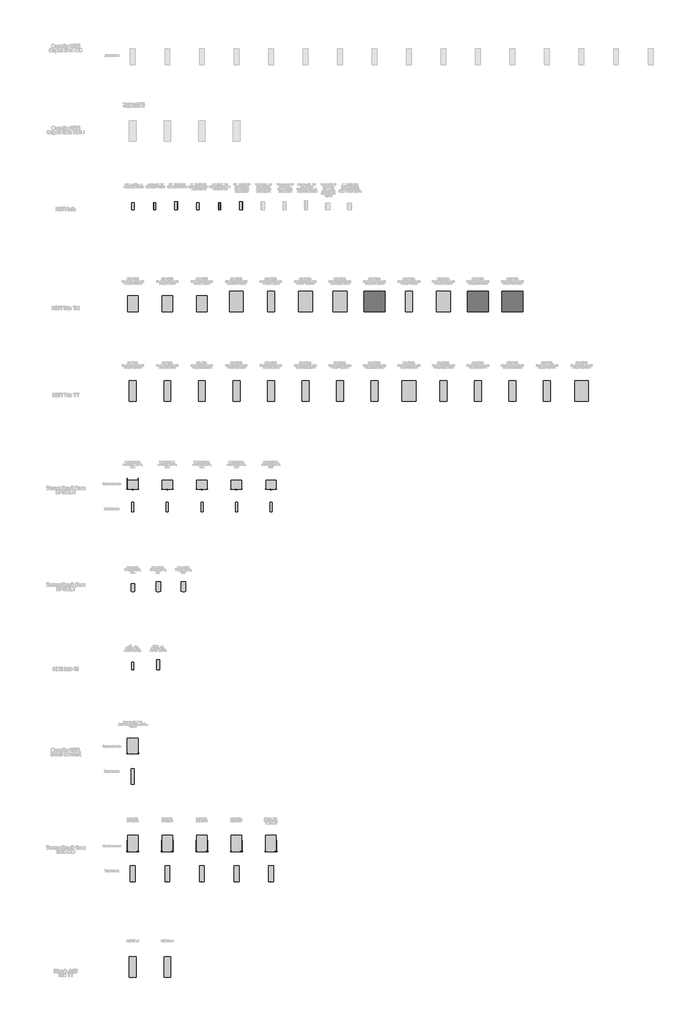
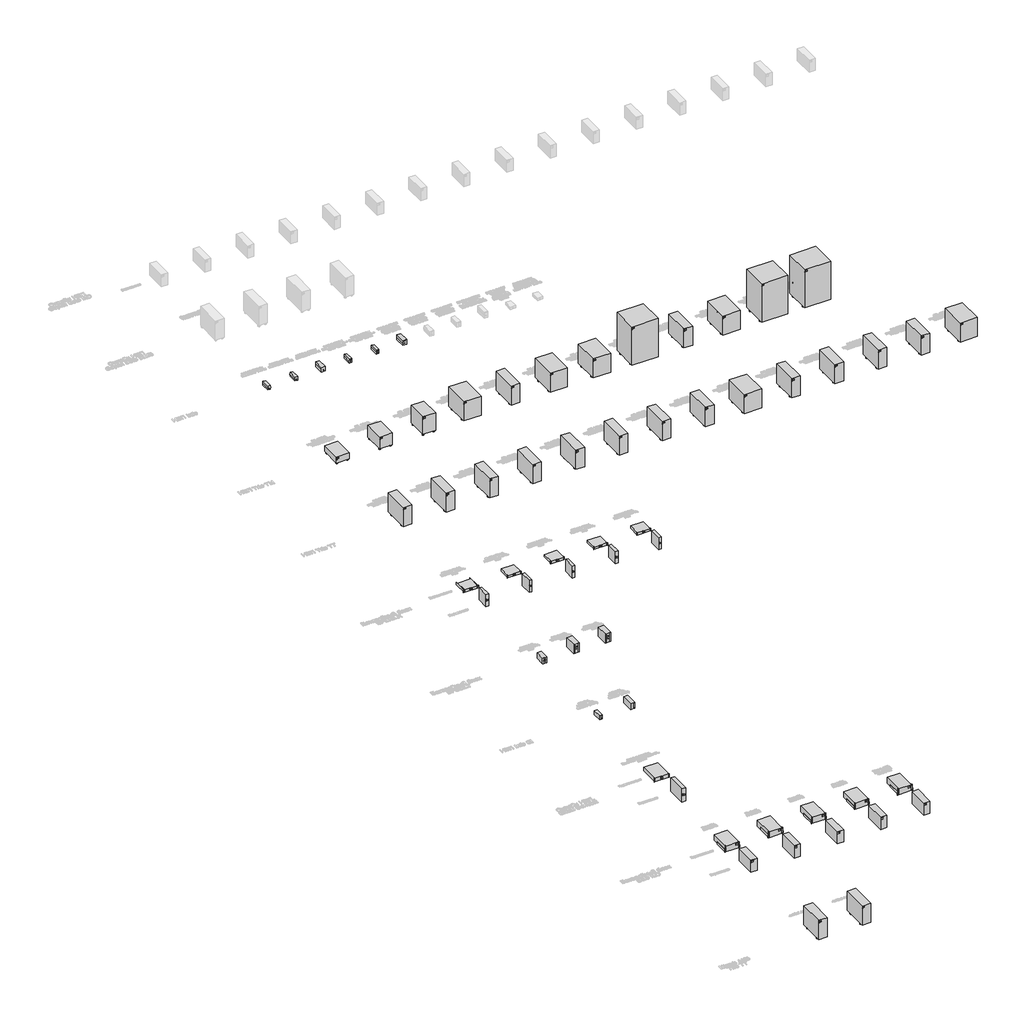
# One storey, part 1 of 74: 134 proxies.
"""IFC4 building model written with IfcOpenShell, lengths in millimetres."""

from ifc_helpers import new_model, si_unit, origin, place, context, project, spatial, transform, mapped, element, save
from components import electrical_equipment_459813d2, electrical_equipment_13bdf060, electrical_equipment_a814c98c, electrical_equipment_870dc941, electrical_equipment_41b7a089, electrical_equipment_c397dae7, electrical_equipment_383dc071, electrical_equipment_30037361, electrical_equipment_1890145e, electrical_equipment_aa2af709, electrical_equipment_2f6c1f54, electrical_equipment_2c9e7c44, electrical_equipment_71196d91, electrical_equipment_f6df29bd, electrical_equipment_e701efe5, electrical_equipment_fbf8d0cd, electrical_equipment_228549ca, electrical_equipment_f8392c63, electrical_equipment_2a145548, as400_464786aa, info1200s_5d6a48d0, info1500si_ee5d4c1f, info600s_33f5c08e, info850si_09f0f657

model = new_model("IFC4")

# Units and contexts
model_context = context("Model", 3, world=origin())
ifc_project = project(units=[si_unit("LENGTHUNIT", "METRE", prefix="MILLI")], contexts=[model_context])

# Site, building, storey
site = spatial("IfcSite", under=ifc_project)
building = spatial("IfcBuilding", under=site)
storey = spatial("IfcBuildingStorey", under=building, Name="Этаж 01", Elevation=0.0)

# Proxies
placement = place(None, origin())
electrical_equipment_shape = electrical_equipment_459813d2(model_context)
element("IfcBuildingElementProxy", 1, Name="НВО_КНС_ИБПInfo_DKC : INFOLCD1200I", ObjectType="НВО_КНС_ИБПInfo_DKC : INFOLCD1200I", at=placement, inside=storey, context=model_context, shape_type="MappedRepresentation", body=[
    mapped(electrical_equipment_shape, transform((6061.9549183, -12079.9980002, 0.0), x_axis=(1.0, 0.0, 0.0), y_axis=(0.0, 1.0, 0.0), z_axis=(0.0, 0.0, 1.0))),
])
electrical_equipment_2_shape = electrical_equipment_13bdf060(model_context)
element("IfcBuildingElementProxy", 2, Name="НВО_КНС_ИБПInfo_DKC : INFOLCD600I", ObjectType="НВО_КНС_ИБПInfo_DKC : INFOLCD600I", at=placement, inside=storey, context=model_context, shape_type="MappedRepresentation", body=[
    mapped(electrical_equipment_2_shape, transform((4178.8620657, -12079.9980002, 0.0), x_axis=(1.0, 0.0, 0.0), y_axis=(0.0, 1.0, 0.0), z_axis=(0.0, 0.0, 1.0))),
])
element("IfcBuildingElementProxy", 3, Name="НВО_КНС_ИБПInfo_DKC : INFOLCD800I", ObjectType="НВО_КНС_ИБПInfo_DKC : INFOLCD800I", at=placement, inside=storey, context=model_context, shape_type="MappedRepresentation", body=[
    mapped(electrical_equipment_2_shape, transform((5120.408492, -12079.9980002, 0.0), x_axis=(1.0, 0.0, 0.0), y_axis=(0.0, 1.0, 0.0), z_axis=(0.0, 0.0, 1.0))),
])
electrical_equipment_3_shape = electrical_equipment_a814c98c(model_context)
element("IfcBuildingElementProxy", 4, Name="НВО_КНС_ИБПTrioTM_DKC : TRIOTM10A120", ObjectType="НВО_КНС_ИБПTrioTM_DKC : TRIOTM10A120", at=placement, inside=storey, context=model_context, shape_type="MappedRepresentation", body=[
    mapped(electrical_equipment_3_shape, transform((5852.6732678, -16519.0619239, 0.0), x_axis=(1.0, 0.0, 0.0), y_axis=(0.0, 1.0, 0.0), z_axis=(0.0, 0.0, 1.0))),
])
electrical_equipment_4_shape = electrical_equipment_870dc941(model_context)
element("IfcBuildingElementProxy", 5, Name="НВО_КНС_ИБПTrioTM_DKC : TRIOTM10A30", ObjectType="НВО_КНС_ИБПTrioTM_DKC : TRIOTM10A30", at=placement, inside=storey, context=model_context, shape_type="MappedRepresentation", body=[
    mapped(electrical_equipment_4_shape, transform((2852.6732678, -16519.0619239, 0.0), x_axis=(1.0, 0.0, 0.0), y_axis=(0.0, 1.0, 0.0), z_axis=(0.0, 0.0, 1.0))),
])
electrical_equipment_5_shape = electrical_equipment_41b7a089(model_context)
element("IfcBuildingElementProxy", 6, Name="НВО_КНС_ИБПTrioTM_DKC : TRIOTM10A60", ObjectType="НВО_КНС_ИБПTrioTM_DKC : TRIOTM10A60", at=placement, inside=storey, context=model_context, shape_type="MappedRepresentation", body=[
    mapped(electrical_equipment_5_shape, transform((4352.6732678, -16519.0619239, 0.0), x_axis=(1.0, 0.0, 0.0), y_axis=(0.0, 1.0, 0.0), z_axis=(0.0, 0.0, 1.0))),
])
electrical_equipment_6_shape = electrical_equipment_c397dae7(model_context)
element("IfcBuildingElementProxy", 7, Name="НВО_КНС_ИБПTrioTM_DKC : TRIOTM15A10", ObjectType="НВО_КНС_ИБПTrioTM_DKC : TRIOTM15A10", at=placement, inside=storey, context=model_context, shape_type="MappedRepresentation", body=[
    mapped(electrical_equipment_6_shape, transform((7352.6732678, -16519.0619239, 0.0), x_axis=(1.0, 0.0, 0.0), y_axis=(0.0, 1.0, 0.0), z_axis=(0.0, 0.0, 1.0))),
])
electrical_equipment_7_shape = electrical_equipment_383dc071(model_context)
element("IfcBuildingElementProxy", 8, Name="НВО_КНС_ИБПTrioTM_DKC : TRIOTM15A120", ObjectType="НВО_КНС_ИБПTrioTM_DKC : TRIOTM15A120", at=placement, inside=storey, context=model_context, shape_type="MappedRepresentation", body=[
    mapped(electrical_equipment_7_shape, transform((11852.6732678, -16519.0619239, 0.0), x_axis=(1.0, 0.0, 0.0), y_axis=(0.0, 1.0, 0.0), z_axis=(0.0, 0.0, 1.0))),
])
element("IfcBuildingElementProxy", 9, Name="НВО_КНС_ИБПTrioTM_DKC : TRIOTM15A60", ObjectType="НВО_КНС_ИБПTrioTM_DKC : TRIOTM15A60", at=placement, inside=storey, context=model_context, shape_type="MappedRepresentation", body=[
    mapped(electrical_equipment_3_shape, transform((10352.6732678, -16519.0619239, 0.0), x_axis=(1.0, 0.0, 0.0), y_axis=(0.0, 1.0, 0.0), z_axis=(0.0, 0.0, 1.0))),
])
element("IfcBuildingElementProxy", 10, Name="НВО_КНС_ИБПTrioTM_DKC : TRIOTM20A10", ObjectType="НВО_КНС_ИБПTrioTM_DKC : TRIOTM20A10", at=placement, inside=storey, context=model_context, shape_type="MappedRepresentation", body=[
    mapped(electrical_equipment_6_shape, transform((13352.6732678, -16519.0619239, 0.0), x_axis=(1.0, 0.0, 0.0), y_axis=(0.0, 1.0, 0.0), z_axis=(0.0, 0.0, 1.0))),
])
element("IfcBuildingElementProxy", 11, Name="НВО_КНС_ИБПTrioTM_DKC : TRIOTM20A120", ObjectType="НВО_КНС_ИБПTrioTM_DKC : TRIOTM20A120", at=placement, inside=storey, context=model_context, shape_type="MappedRepresentation", body=[
    mapped(electrical_equipment_7_shape, transform((17852.6732678, -16519.0619239, 0.0), x_axis=(1.0, 0.0, 0.0), y_axis=(0.0, 1.0, 0.0), z_axis=(0.0, 0.0, 1.0))),
])
element("IfcBuildingElementProxy", 12, Name="НВО_КНС_ИБПTrioTM_DKC : TRIOTM20A30", ObjectType="НВО_КНС_ИБПTrioTM_DKC : TRIOTM20A30", at=placement, inside=storey, context=model_context, shape_type="MappedRepresentation", body=[
    mapped(electrical_equipment_3_shape, transform((14852.6732678, -16519.0619239, 0.0), x_axis=(1.0, 0.0, 0.0), y_axis=(0.0, 1.0, 0.0), z_axis=(0.0, 0.0, 1.0))),
])
element("IfcBuildingElementProxy", 13, Name="НВО_КНС_ИБПTrioTT_DKC : TRIOTT10A10", ObjectType="НВО_КНС_ИБПTrioTT_DKC : TRIOTT10A10", at=placement, inside=storey, context=model_context, shape_type="MappedRepresentation", body=[
    mapped(electrical_equipment_6_shape, transform((7352.6732678, -20409.9287992, 0.0), x_axis=(1.0, 0.0, 0.0), y_axis=(0.0, 1.0, 0.0), z_axis=(0.0, 0.0, 1.0))),
])
element("IfcBuildingElementProxy", 14, Name="НВО_КНС_ИБПTrioTT_DKC : TRIOTT10A30", ObjectType="НВО_КНС_ИБПTrioTT_DKC : TRIOTT10A30", at=placement, inside=storey, context=model_context, shape_type="MappedRepresentation", body=[
    mapped(electrical_equipment_6_shape, transform((8852.6732678, -20409.9287992, 0.0), x_axis=(1.0, 0.0, 0.0), y_axis=(0.0, 1.0, 0.0), z_axis=(0.0, 0.0, 1.0))),
])
element("IfcBuildingElementProxy", 15, Name="НВО_КНС_ИБПTrioTT_DKC : TRIOTT12A15", ObjectType="НВО_КНС_ИБПTrioTT_DKC : TRIOTT12A15", at=placement, inside=storey, context=model_context, shape_type="MappedRepresentation", body=[
    mapped(electrical_equipment_6_shape, transform((11852.6732678, -20409.9287992, 0.0), x_axis=(1.0, 0.0, 0.0), y_axis=(0.0, 1.0, 0.0), z_axis=(0.0, 0.0, 1.0))),
])
element("IfcBuildingElementProxy", 16, Name="НВО_КНС_ИБПTrioTT_DKC : TRIOTT15A0", ObjectType="НВО_КНС_ИБПTrioTT_DKC : TRIOTT15A0", at=placement, inside=storey, context=model_context, shape_type="MappedRepresentation", body=[
    mapped(electrical_equipment_3_shape, transform((13352.6732678, -20409.9287992, 0.0), x_axis=(1.0, 0.0, 0.0), y_axis=(0.0, 1.0, 0.0), z_axis=(0.0, 0.0, 1.0))),
])
element("IfcBuildingElementProxy", 17, Name="НВО_КНС_ИБПTrioTT_DKC : TRIOTT15A10", ObjectType="НВО_КНС_ИБПTrioTT_DKC : TRIOTT15A10", at=placement, inside=storey, context=model_context, shape_type="MappedRepresentation", body=[
    mapped(electrical_equipment_6_shape, transform((14852.6732678, -20409.9287992, 0.0), x_axis=(1.0, 0.0, 0.0), y_axis=(0.0, 1.0, 0.0), z_axis=(0.0, 0.0, 1.0))),
])
element("IfcBuildingElementProxy", 18, Name="НВО_КНС_ИБПTrioTT_DKC : TRIOTT20A0", ObjectType="НВО_КНС_ИБПTrioTT_DKC : TRIOTT20A0", at=placement, inside=storey, context=model_context, shape_type="MappedRepresentation", body=[
    mapped(electrical_equipment_6_shape, transform((16352.6732678, -20409.9287992, 0.0), x_axis=(1.0, 0.0, 0.0), y_axis=(0.0, 1.0, 0.0), z_axis=(0.0, 0.0, 1.0))),
])
element("IfcBuildingElementProxy", 19, Name="НВО_КНС_ИБПTrioTT_DKC : TRIOTT30A0", ObjectType="НВО_КНС_ИБПTrioTT_DKC : TRIOTT30A0", at=placement, inside=storey, context=model_context, shape_type="MappedRepresentation", body=[
    mapped(electrical_equipment_6_shape, transform((19352.6732678, -20409.9287992, 0.0), x_axis=(1.0, 0.0, 0.0), y_axis=(0.0, 1.0, 0.0), z_axis=(0.0, 0.0, 1.0))),
])
element("IfcBuildingElementProxy", 20, Name="НВО_КНС_ИБПTrioTT_DKC : TRIOTT40A0", ObjectType="НВО_КНС_ИБПTrioTT_DKC : TRIOTT40A0", at=placement, inside=storey, context=model_context, shape_type="MappedRepresentation", body=[
    mapped(electrical_equipment_3_shape, transform((20852.6732678, -20409.9287992, 0.0), x_axis=(1.0, 0.0, 0.0), y_axis=(0.0, 1.0, 0.0), z_axis=(0.0, 0.0, 1.0))),
])
element("IfcBuildingElementProxy", 21, Name="НВО_КНС_ИБПTrioTT_DKC : TRIOTT8A0", ObjectType="НВО_КНС_ИБПTrioTT_DKC : TRIOTT8A0", at=placement, inside=storey, context=model_context, shape_type="MappedRepresentation", body=[
    mapped(electrical_equipment_6_shape, transform((1352.6732678, -20409.9287992, 0.0), x_axis=(1.0, 0.0, 0.0), y_axis=(0.0, 1.0, 0.0), z_axis=(0.0, 0.0, 1.0))),
])
element("IfcBuildingElementProxy", 22, Name="НВО_КНС_ИБПTrioTT_DKC : TRIOTT8A10", ObjectType="НВО_КНС_ИБПTrioTT_DKC : TRIOTT8A10", at=placement, inside=storey, context=model_context, shape_type="MappedRepresentation", body=[
    mapped(electrical_equipment_6_shape, transform((2852.6732678, -20409.9287992, 0.0), x_axis=(1.0, 0.0, 0.0), y_axis=(0.0, 1.0, 0.0), z_axis=(0.0, 0.0, 1.0))),
])
electrical_equipment_8_shape = electrical_equipment_30037361(model_context)
element("IfcBuildingElementProxy", 23, Name="НВО_КНС_ОнлайнИБПSmallConvert_DKC : SMALLC2A10I", ObjectType="НВО_КНС_ОнлайнИБПSmallConvert_DKC : SMALLC2A10I", at=placement, inside=storey, context=model_context, shape_type="MappedRepresentation", body=[
    mapped(electrical_equipment_8_shape, transform((1352.6732678, -37027.5916155, 0.0), x_axis=(1.0, 0.0, 0.0), y_axis=(0.0, 1.0, 0.0), z_axis=(0.0, 0.0, 1.0))),
])
electrical_equipment_9_shape = electrical_equipment_1890145e(model_context)
element("IfcBuildingElementProxy", 24, Name="НВО_КНС_БатарейныйБлокSoloMD_DKC : BBC15P2A7", ObjectType="НВО_КНС_БатарейныйБлокSoloMD_DKC : BBC15P2A7", at=placement, inside=storey, context=model_context, shape_type="MappedRepresentation", body=[
    mapped(electrical_equipment_9_shape, transform((1352.6732678, -41264.6309971, 0.0), x_axis=(1.0, 0.0, 0.0), y_axis=(0.0, 1.0, 0.0), z_axis=(0.0, 0.0, 1.0))),
])
element("IfcBuildingElementProxy", 25, Name="НВО_КНС_БатарейныйБлокSoloMD_DKC : BBC15P2A9", ObjectType="НВО_КНС_БатарейныйБлокSoloMD_DKC : BBC15P2A9", at=placement, inside=storey, context=model_context, shape_type="MappedRepresentation", body=[
    mapped(electrical_equipment_9_shape, transform((2852.6732678, -41264.6309971, 0.0), x_axis=(1.0, 0.0, 0.0), y_axis=(0.0, 1.0, 0.0), z_axis=(0.0, 0.0, 1.0))),
])
element("IfcBuildingElementProxy", 26, Name="НВО_КНС_БатарейныйБлокSoloMD_DKC : BBC20P2A7", ObjectType="НВО_КНС_БатарейныйБлокSoloMD_DKC : BBC20P2A7", at=placement, inside=storey, context=model_context, shape_type="MappedRepresentation", body=[
    mapped(electrical_equipment_9_shape, transform((4352.6732678, -41264.6309971, 0.0), x_axis=(1.0, 0.0, 0.0), y_axis=(0.0, 1.0, 0.0), z_axis=(0.0, 0.0, 1.0))),
])
element("IfcBuildingElementProxy", 27, Name="НВО_КНС_БатарейныйБлокSoloMD_DKC : BBC20P2A9", ObjectType="НВО_КНС_БатарейныйБлокSoloMD_DKC : BBC20P2A9", at=placement, inside=storey, context=model_context, shape_type="MappedRepresentation", body=[
    mapped(electrical_equipment_9_shape, transform((5852.6732678, -41264.6309971, 0.0), x_axis=(1.0, 0.0, 0.0), y_axis=(0.0, 1.0, 0.0), z_axis=(0.0, 0.0, 1.0))),
])
electrical_equipment_10_shape = electrical_equipment_aa2af709(model_context)
element("IfcBuildingElementProxy", 28, Name="НВО_КНС_БатарейныйБлокBPSMLR_DKC : BPSMLR1-24V", ObjectType="НВО_КНС_БатарейныйБлокBPSMLR_DKC : BPSMLR1-24V", at=placement, inside=storey, context=model_context, shape_type="MappedRepresentation", body=[
    mapped(electrical_equipment_10_shape, transform((1352.6732678, -24233.5961918, 0.0), x_axis=(1.0, 0.0, 0.0), y_axis=(0.0, 1.0, 0.0), z_axis=(0.0, 0.0, 1.0))),
])
electrical_equipment_11_shape = electrical_equipment_2f6c1f54(model_context)
element("IfcBuildingElementProxy", 29, Name="НВО_КНС_БатарейныйБлокBPSMLR_DKC : BPSMLR1-24V", ObjectType="НВО_КНС_БатарейныйБлокBPSMLR_DKC : BPSMLR1-24V", at=placement, inside=storey, context=model_context, shape_type="MappedRepresentation", body=[
    mapped(electrical_equipment_11_shape, transform((1352.6732678, -25208.0057617, 0.0), x_axis=(1.0, 0.0, 0.0), y_axis=(0.0, 1.0, 0.0), z_axis=(0.0, 0.0, 1.0))),
])
element("IfcBuildingElementProxy", 30, Name="НВО_КНС_БатарейныйБлокBPSMLR_DKC : BPSMLR1-36V", ObjectType="НВО_КНС_БатарейныйБлокBPSMLR_DKC : BPSMLR1-36V", at=placement, inside=storey, context=model_context, shape_type="MappedRepresentation", body=[
    mapped(electrical_equipment_11_shape, transform((2852.6732678, -25208.0057617, 0.0), x_axis=(1.0, 0.0, 0.0), y_axis=(0.0, 1.0, 0.0), z_axis=(0.0, 0.0, 1.0))),
])
element("IfcBuildingElementProxy", 31, Name="НВО_КНС_БатарейныйБлокBPSMLR_DKC : BPSMLR2-48V", ObjectType="НВО_КНС_БатарейныйБлокBPSMLR_DKC : BPSMLR2-48V", at=placement, inside=storey, context=model_context, shape_type="MappedRepresentation", body=[
    mapped(electrical_equipment_11_shape, transform((4352.6732678, -25208.0057617, 0.0), x_axis=(1.0, 0.0, 0.0), y_axis=(0.0, 1.0, 0.0), z_axis=(0.0, 0.0, 1.0))),
])
element("IfcBuildingElementProxy", 32, Name="НВО_КНС_БатарейныйБлокBPSMLR_DKC : BPSMLR2-72V", ObjectType="НВО_КНС_БатарейныйБлокBPSMLR_DKC : BPSMLR2-72V", at=placement, inside=storey, context=model_context, shape_type="MappedRepresentation", body=[
    mapped(electrical_equipment_11_shape, transform((5852.6732678, -25208.0057617, 0.0), x_axis=(1.0, 0.0, 0.0), y_axis=(0.0, 1.0, 0.0), z_axis=(0.0, 0.0, 1.0))),
])
element("IfcBuildingElementProxy", 33, Name="НВО_КНС_БатарейныйБлокBPSMLR_DKC : BPSMLR3-96V", ObjectType="НВО_КНС_БатарейныйБлокBPSMLR_DKC : BPSMLR3-96V", at=placement, inside=storey, context=model_context, shape_type="MappedRepresentation", body=[
    mapped(electrical_equipment_11_shape, transform((7352.6732678, -25208.0057617, 0.0), x_axis=(1.0, 0.0, 0.0), y_axis=(0.0, 1.0, 0.0), z_axis=(0.0, 0.0, 1.0))),
])
electrical_equipment_12_shape = electrical_equipment_2c9e7c44(model_context)
element("IfcBuildingElementProxy", 34, Name="Рельсы для ИБП RAILSMLR : RAILSMLR", ObjectType="Рельсы для ИБП RAILSMLR : RAILSMLR", at=placement, inside=storey, context=model_context, shape_type="MappedRepresentation", body=[
    mapped(electrical_equipment_12_shape, transform((1352.6732678, -39955.2981576, 0.0), x_axis=(1.0, 0.0, 0.0), y_axis=(0.0, 1.0, 0.0), z_axis=(0.0, 0.0, 1.0))),
])
element("IfcBuildingElementProxy", 35, Name="Рельсы для ИБП RAILSMLR : RAILSMLR", ObjectType="Рельсы для ИБП RAILSMLR : RAILSMLR", at=placement, inside=storey, context=model_context, shape_type="MappedRepresentation", body=[
    mapped(electrical_equipment_12_shape, transform((2852.6732678, -39955.2981576, 0.0), x_axis=(1.0, 0.0, 0.0), y_axis=(0.0, 1.0, 0.0), z_axis=(0.0, 0.0, 1.0))),
])
element("IfcBuildingElementProxy", 36, Name="Рельсы для ИБП RAILSMLR : RAILSMLR", ObjectType="Рельсы для ИБП RAILSMLR : RAILSMLR", at=placement, inside=storey, context=model_context, shape_type="MappedRepresentation", body=[
    mapped(electrical_equipment_12_shape, transform((4352.6732678, -39955.2981576, 0.0), x_axis=(1.0, 0.0, 0.0), y_axis=(0.0, 1.0, 0.0), z_axis=(0.0, 0.0, 1.0))),
])
element("IfcBuildingElementProxy", 37, Name="Рельсы для ИБП RAILSMLR : RAILSMLR", ObjectType="Рельсы для ИБП RAILSMLR : RAILSMLR", at=placement, inside=storey, context=model_context, shape_type="MappedRepresentation", body=[
    mapped(electrical_equipment_12_shape, transform((5852.6732678, -39955.2981576, 0.0), x_axis=(1.0, 0.0, 0.0), y_axis=(0.0, 1.0, 0.0), z_axis=(0.0, 0.0, 1.0))),
])
element("IfcBuildingElementProxy", 38, Name="Рельсы для ИБП RAILSMLR : RAILSMLR", ObjectType="Рельсы для ИБП RAILSMLR : RAILSMLR", at=placement, inside=storey, context=model_context, shape_type="MappedRepresentation", body=[
    mapped(electrical_equipment_12_shape, transform((7352.6732678, -39955.2981576, 0.0), x_axis=(1.0, 0.0, 0.0), y_axis=(0.0, 1.0, 0.0), z_axis=(0.0, 0.0, 1.0))),
])
element("IfcBuildingElementProxy", 39, Name="Рельсы для ИБП RAILSMLR : RAILSMLR", ObjectType="Рельсы для ИБП RAILSMLR : RAILSMLR", at=placement, inside=storey, context=model_context, shape_type="MappedRepresentation", body=[
    mapped(electrical_equipment_12_shape, transform((1352.6732678, -24231.5961918, 0.0), x_axis=(1.0, 0.0, 0.0), y_axis=(0.0, 1.0, 0.0), z_axis=(0.0, 0.0, 1.0))),
])
electrical_equipment_13_shape = electrical_equipment_71196d91(model_context)
element("IfcBuildingElementProxy", 40, Name="Внешний переключатель байпаса MBSSMLR : MBSSMLR", ObjectType="Внешний переключатель байпаса MBSSMLR : MBSSMLR", at=placement, inside=storey, context=model_context, shape_type="MappedRepresentation", body=[
    mapped(electrical_equipment_13_shape, transform((1352.6732678, -28328.0189073, 0.0), x_axis=(1.0, 0.0, 0.0), y_axis=(0.0, 1.0, 0.0), z_axis=(0.0, 0.0, 1.0))),
])
element("IfcBuildingElementProxy", 41, Name="Внешний переключатель байпаса MBSSMLR : MBSSMLR", ObjectType="Внешний переключатель байпаса MBSSMLR : MBSSMLR", at=placement, inside=storey, context=model_context, shape_type="MappedRepresentation", body=[
    mapped(electrical_equipment_13_shape, transform((2455.093989, -28246.0189073, 0.0), x_axis=(1.0, 0.0, 0.0), y_axis=(0.0, 1.0, 0.0), z_axis=(0.0, 0.0, 1.0))),
])
element("IfcBuildingElementProxy", 42, Name="Внешний переключатель байпаса MBSSMLR : MBSSMLR", ObjectType="Внешний переключатель байпаса MBSSMLR : MBSSMLR", at=placement, inside=storey, context=model_context, shape_type="MappedRepresentation", body=[
    mapped(electrical_equipment_13_shape, transform((3555.4443506, -28246.0189073, 0.0), x_axis=(1.0, 0.0, 0.0), y_axis=(0.0, 1.0, 0.0), z_axis=(0.0, 0.0, 1.0))),
])
electrical_equipment_14_shape = electrical_equipment_f6df29bd(model_context)
element("IfcBuildingElementProxy", 43, Name="Адаптер SNMPSM2 : SNMPSM2", ObjectType="Адаптер SNMPSM2 : SNMPSM2", at=placement, inside=storey, context=model_context, shape_type="MappedRepresentation", body=[
    mapped(electrical_equipment_14_shape, transform((1352.6732678, -28328.0189073, 0.0), x_axis=(1.0, 0.0, 0.0), y_axis=(0.0, 1.0, 0.0), z_axis=(0.0, 0.0, 1.0))),
])
element("IfcBuildingElementProxy", 44, Name="Адаптер SNMPSM2 : SNMPSM2", ObjectType="Адаптер SNMPSM2 : SNMPSM2", at=placement, inside=storey, context=model_context, shape_type="MappedRepresentation", body=[
    mapped(electrical_equipment_14_shape, transform((2455.093989, -28246.0189073, 0.0), x_axis=(1.0, 0.0, 0.0), y_axis=(0.0, 1.0, 0.0), z_axis=(0.0, 0.0, 1.0))),
])
element("IfcBuildingElementProxy", 45, Name="Адаптер SNMPSM2 : SNMPSM2", ObjectType="Адаптер SNMPSM2 : SNMPSM2", at=placement, inside=storey, context=model_context, shape_type="MappedRepresentation", body=[
    mapped(electrical_equipment_14_shape, transform((3555.4443506, -28246.0189073, 0.0), x_axis=(1.0, 0.0, 0.0), y_axis=(0.0, 1.0, 0.0), z_axis=(0.0, 0.0, 1.0))),
])
element("IfcBuildingElementProxy", 46, Name="Адаптер SNMPSM2 : SNMPMMD", ObjectType="Адаптер SNMPSM2 : SNMPMMD", at=placement, inside=storey, context=model_context, shape_type="MappedRepresentation", body=[
    mapped(electrical_equipment_14_shape, transform((1352.6732678, -15819.0619239, 70.0), x_axis=(1.0, 0.0, 0.0), y_axis=(0.0, 1.0, 0.0), z_axis=(0.0, 0.0, 1.0))),
])
element("IfcBuildingElementProxy", 47, Name="Адаптер SNMPSM2 : SNMPMMD", ObjectType="Адаптер SNMPSM2 : SNMPMMD", at=placement, inside=storey, context=model_context, shape_type="MappedRepresentation", body=[
    mapped(electrical_equipment_14_shape, transform((1352.6732678, -19509.9287992, 70.0), x_axis=(1.0, 0.0, 0.0), y_axis=(0.0, 1.0, 0.0), z_axis=(0.0, 0.0, 1.0))),
])
element("IfcBuildingElementProxy", 48, Name="Адаптер SNMPSM2 : SNMPMMD", ObjectType="Адаптер SNMPSM2 : SNMPMMD", at=placement, inside=storey, context=model_context, shape_type="MappedRepresentation", body=[
    mapped(electrical_equipment_14_shape, transform((1352.6732678, -39257.2981576, 0.0), x_axis=(1.0, 0.0, 0.0), y_axis=(0.0, 1.0, 0.0), z_axis=(0.0, 0.0, 1.0))),
])
element("IfcBuildingElementProxy", 49, Name="Адаптер SNMPSM2 : SNMPMMD", ObjectType="Адаптер SNMPSM2 : SNMPMMD", at=placement, inside=storey, context=model_context, shape_type="MappedRepresentation", body=[
    mapped(electrical_equipment_14_shape, transform((2852.6732678, -39257.2981576, 0.0), x_axis=(1.0, 0.0, 0.0), y_axis=(0.0, 1.0, 0.0), z_axis=(0.0, 0.0, 1.0))),
])
element("IfcBuildingElementProxy", 50, Name="Адаптер SNMPSM2 : SNMPMMD", ObjectType="Адаптер SNMPSM2 : SNMPMMD", at=placement, inside=storey, context=model_context, shape_type="MappedRepresentation", body=[
    mapped(electrical_equipment_14_shape, transform((4352.6732678, -39257.2981576, 0.0), x_axis=(1.0, 0.0, 0.0), y_axis=(0.0, 1.0, 0.0), z_axis=(0.0, 0.0, 1.0))),
])
element("IfcBuildingElementProxy", 51, Name="Адаптер SNMPSM2 : SNMPMMD", ObjectType="Адаптер SNMPSM2 : SNMPMMD", at=placement, inside=storey, context=model_context, shape_type="MappedRepresentation", body=[
    mapped(electrical_equipment_14_shape, transform((5852.6732678, -39257.2981576, 0.0), x_axis=(1.0, 0.0, 0.0), y_axis=(0.0, 1.0, 0.0), z_axis=(0.0, 0.0, 1.0))),
])
element("IfcBuildingElementProxy", 52, Name="Адаптер SNMPSM2 : SNMPMMD", ObjectType="Адаптер SNMPSM2 : SNMPMMD", at=placement, inside=storey, context=model_context, shape_type="MappedRepresentation", body=[
    mapped(electrical_equipment_14_shape, transform((7352.6732678, -39257.2981576, 0.0), x_axis=(1.0, 0.0, 0.0), y_axis=(0.0, 1.0, 0.0), z_axis=(0.0, 0.0, 1.0))),
])
element("IfcBuildingElementProxy", 53, Name="Адаптер SNMPSM2 : SNMPMMD", ObjectType="Адаптер SNMPSM2 : SNMPMMD", at=placement, inside=storey, context=model_context, shape_type="MappedRepresentation", body=[
    mapped(electrical_equipment_14_shape, transform((1352.6732678, -40564.6309971, 0.0), x_axis=(1.0, 0.0, 0.0), y_axis=(0.0, 1.0, 0.0), z_axis=(0.0, 0.0, 1.0))),
])
element("IfcBuildingElementProxy", 54, Name="Адаптер SNMPSM2 : SNMPMMD", ObjectType="Адаптер SNMPSM2 : SNMPMMD", at=placement, inside=storey, context=model_context, shape_type="MappedRepresentation", body=[
    mapped(electrical_equipment_14_shape, transform((2852.6732678, -40564.6309971, 0.0), x_axis=(1.0, 0.0, 0.0), y_axis=(0.0, 1.0, 0.0), z_axis=(0.0, 0.0, 1.0))),
])
element("IfcBuildingElementProxy", 55, Name="Адаптер SNMPSM2 : SNMPMMD", ObjectType="Адаптер SNMPSM2 : SNMPMMD", at=placement, inside=storey, context=model_context, shape_type="MappedRepresentation", body=[
    mapped(electrical_equipment_14_shape, transform((4352.6732678, -40564.6309971, 0.0), x_axis=(1.0, 0.0, 0.0), y_axis=(0.0, 1.0, 0.0), z_axis=(0.0, 0.0, 1.0))),
])
element("IfcBuildingElementProxy", 56, Name="Адаптер SNMPSM2 : SNMPMMD", ObjectType="Адаптер SNMPSM2 : SNMPMMD", at=placement, inside=storey, context=model_context, shape_type="MappedRepresentation", body=[
    mapped(electrical_equipment_14_shape, transform((5852.6732678, -40564.6309971, 0.0), x_axis=(1.0, 0.0, 0.0), y_axis=(0.0, 1.0, 0.0), z_axis=(0.0, 0.0, 1.0))),
])
element("IfcBuildingElementProxy", 57, Name="Адаптер SNMPSM2 : SNMPMMD", ObjectType="Адаптер SNMPSM2 : SNMPMMD", at=placement, inside=storey, context=model_context, shape_type="MappedRepresentation", body=[
    mapped(electrical_equipment_14_shape, transform((7352.6732678, -40564.6309971, 0.0), x_axis=(1.0, 0.0, 0.0), y_axis=(0.0, 1.0, 0.0), z_axis=(0.0, 0.0, 1.0))),
])
element("IfcBuildingElementProxy", 58, Name="Адаптер SNMPSM2 : SNMPMMD", ObjectType="Адаптер SNMPSM2 : SNMPMMD", at=placement, inside=storey, context=model_context, shape_type="MappedRepresentation", body=[
    mapped(electrical_equipment_14_shape, transform((2852.6732678, -15819.0619239, 70.0), x_axis=(1.0, 0.0, 0.0), y_axis=(0.0, 1.0, 0.0), z_axis=(0.0, 0.0, 1.0))),
])
element("IfcBuildingElementProxy", 59, Name="Адаптер SNMPSM2 : SNMPMMD", ObjectType="Адаптер SNMPSM2 : SNMPMMD", at=placement, inside=storey, context=model_context, shape_type="MappedRepresentation", body=[
    mapped(electrical_equipment_14_shape, transform((4352.6732678, -15819.0619239, 70.0), x_axis=(1.0, 0.0, 0.0), y_axis=(0.0, 1.0, 0.0), z_axis=(0.0, 0.0, 1.0))),
])
element("IfcBuildingElementProxy", 60, Name="Адаптер SNMPSM2 : SNMPMMD", ObjectType="Адаптер SNMPSM2 : SNMPMMD", at=placement, inside=storey, context=model_context, shape_type="MappedRepresentation", body=[
    mapped(electrical_equipment_14_shape, transform((5852.6732678, -15619.0619239, 70.0), x_axis=(1.0, 0.0, 0.0), y_axis=(0.0, 1.0, 0.0), z_axis=(0.0, 0.0, 1.0))),
])
element("IfcBuildingElementProxy", 61, Name="Адаптер SNMPSM2 : SNMPMMD", ObjectType="Адаптер SNMPSM2 : SNMPMMD", at=placement, inside=storey, context=model_context, shape_type="MappedRepresentation", body=[
    mapped(electrical_equipment_14_shape, transform((7352.6732678, -15619.0619239, 70.0), x_axis=(1.0, 0.0, 0.0), y_axis=(0.0, 1.0, 0.0), z_axis=(0.0, 0.0, 1.0))),
])
element("IfcBuildingElementProxy", 62, Name="Адаптер SNMPSM2 : SNMPMMD", ObjectType="Адаптер SNMPSM2 : SNMPMMD", at=placement, inside=storey, context=model_context, shape_type="MappedRepresentation", body=[
    mapped(electrical_equipment_14_shape, transform((2852.6732678, -19509.9287992, 70.0), x_axis=(1.0, 0.0, 0.0), y_axis=(0.0, 1.0, 0.0), z_axis=(0.0, 0.0, 1.0))),
])
element("IfcBuildingElementProxy", 63, Name="Адаптер SNMPSM2 : SNMPMMD", ObjectType="Адаптер SNMPSM2 : SNMPMMD", at=placement, inside=storey, context=model_context, shape_type="MappedRepresentation", body=[
    mapped(electrical_equipment_14_shape, transform((4352.6732678, -19509.9287992, 70.0), x_axis=(1.0, 0.0, 0.0), y_axis=(0.0, 1.0, 0.0), z_axis=(0.0, 0.0, 1.0))),
])
element("IfcBuildingElementProxy", 64, Name="Адаптер SNMPSM2 : SNMPMMD", ObjectType="Адаптер SNMPSM2 : SNMPMMD", at=placement, inside=storey, context=model_context, shape_type="MappedRepresentation", body=[
    mapped(electrical_equipment_14_shape, transform((5852.6732678, -19509.9287992, 70.0), x_axis=(1.0, 0.0, 0.0), y_axis=(0.0, 1.0, 0.0), z_axis=(0.0, 0.0, 1.0))),
])
element("IfcBuildingElementProxy", 65, Name="Адаптер SNMPSM2 : SNMPMMD", ObjectType="Адаптер SNMPSM2 : SNMPMMD", at=placement, inside=storey, context=model_context, shape_type="MappedRepresentation", body=[
    mapped(electrical_equipment_14_shape, transform((7352.6732678, -19509.9287992, 70.0), x_axis=(1.0, 0.0, 0.0), y_axis=(0.0, 1.0, 0.0), z_axis=(0.0, 0.0, 1.0))),
])
element("IfcBuildingElementProxy", 66, Name="Адаптер SNMPSM2 : SNMPMMD", ObjectType="Адаптер SNMPSM2 : SNMPMMD", at=placement, inside=storey, context=model_context, shape_type="MappedRepresentation", body=[
    mapped(electrical_equipment_14_shape, transform((8852.6732678, -19509.9287992, 70.0), x_axis=(1.0, 0.0, 0.0), y_axis=(0.0, 1.0, 0.0), z_axis=(0.0, 0.0, 1.0))),
])
element("IfcBuildingElementProxy", 67, Name="Адаптер SNMPSM2 : SNMPMMD", ObjectType="Адаптер SNMPSM2 : SNMPMMD", at=placement, inside=storey, context=model_context, shape_type="MappedRepresentation", body=[
    mapped(electrical_equipment_14_shape, transform((10352.6732678, -19509.9287992, 70.0), x_axis=(1.0, 0.0, 0.0), y_axis=(0.0, 1.0, 0.0), z_axis=(0.0, 0.0, 1.0))),
])
element("IfcBuildingElementProxy", 68, Name="Адаптер SNMPSM2 : SNMPMMD", ObjectType="Адаптер SNMPSM2 : SNMPMMD", at=placement, inside=storey, context=model_context, shape_type="MappedRepresentation", body=[
    mapped(electrical_equipment_14_shape, transform((11852.6732678, -19509.9287992, 70.0), x_axis=(1.0, 0.0, 0.0), y_axis=(0.0, 1.0, 0.0), z_axis=(0.0, 0.0, 1.0))),
])
element("IfcBuildingElementProxy", 69, Name="Адаптер SNMPSM2 : SNMPMMD", ObjectType="Адаптер SNMPSM2 : SNMPMMD", at=placement, inside=storey, context=model_context, shape_type="MappedRepresentation", body=[
    mapped(electrical_equipment_14_shape, transform((13352.6732678, -19509.9287992, 70.0), x_axis=(1.0, 0.0, 0.0), y_axis=(0.0, 1.0, 0.0), z_axis=(0.0, 0.0, 1.0))),
])
element("IfcBuildingElementProxy", 70, Name="Адаптер SNMPSM2 : SNMPMMD", ObjectType="Адаптер SNMPSM2 : SNMPMMD", at=placement, inside=storey, context=model_context, shape_type="MappedRepresentation", body=[
    mapped(electrical_equipment_14_shape, transform((14852.6732678, -19509.9287992, 70.0), x_axis=(1.0, 0.0, 0.0), y_axis=(0.0, 1.0, 0.0), z_axis=(0.0, 0.0, 1.0))),
])
element("IfcBuildingElementProxy", 71, Name="Адаптер SNMPSM2 : SNMPMMD", ObjectType="Адаптер SNMPSM2 : SNMPMMD", at=placement, inside=storey, context=model_context, shape_type="MappedRepresentation", body=[
    mapped(electrical_equipment_14_shape, transform((16352.6732678, -19509.9287992, 70.0), x_axis=(1.0, 0.0, 0.0), y_axis=(0.0, 1.0, 0.0), z_axis=(0.0, 0.0, 1.0))),
])
element("IfcBuildingElementProxy", 72, Name="Адаптер SNMPSM2 : SNMPMMD", ObjectType="Адаптер SNMPSM2 : SNMPMMD", at=placement, inside=storey, context=model_context, shape_type="MappedRepresentation", body=[
    mapped(electrical_equipment_14_shape, transform((17852.6732678, -19509.9287992, 70.0), x_axis=(1.0, 0.0, 0.0), y_axis=(0.0, 1.0, 0.0), z_axis=(0.0, 0.0, 1.0))),
])
element("IfcBuildingElementProxy", 73, Name="Адаптер SNMPSM2 : SNMPMMD", ObjectType="Адаптер SNMPSM2 : SNMPMMD", at=placement, inside=storey, context=model_context, shape_type="MappedRepresentation", body=[
    mapped(electrical_equipment_14_shape, transform((19352.6732678, -19509.9287992, 70.0), x_axis=(1.0, 0.0, 0.0), y_axis=(0.0, 1.0, 0.0), z_axis=(0.0, 0.0, 1.0))),
])
element("IfcBuildingElementProxy", 74, Name="Адаптер SNMPSM2 : SNMPMMD", ObjectType="Адаптер SNMPSM2 : SNMPMMD", at=placement, inside=storey, context=model_context, shape_type="MappedRepresentation", body=[
    mapped(electrical_equipment_14_shape, transform((20852.6732678, -19509.9287992, 70.0), x_axis=(1.0, 0.0, 0.0), y_axis=(0.0, 1.0, 0.0), z_axis=(0.0, 0.0, 1.0))),
])
electrical_equipment_15_shape = electrical_equipment_e701efe5(model_context)
element("IfcBuildingElementProxy", 75, Name="НВО_КНС_ИБПTrioTM_DKC : TRIOTM10A10", ObjectType="НВО_КНС_ИБПTrioTM_DKC : TRIOTM10A10", at=placement, inside=storey, context=model_context, shape_type="MappedRepresentation", body=[
    mapped(electrical_equipment_15_shape, transform((1352.6732678, -16519.0619239, 0.0), x_axis=(1.0, 0.0, 0.0), y_axis=(0.0, 1.0, 0.0), z_axis=(0.0, 0.0, 1.0))),
])
element("IfcBuildingElementProxy", 76, Name="НВО_КНС_ИБПTrioTM_DKC : TRIOTM15A30", ObjectType="НВО_КНС_ИБПTrioTM_DKC : TRIOTM15A30", at=placement, inside=storey, context=model_context, shape_type="MappedRepresentation", body=[
    mapped(electrical_equipment_3_shape, transform((8852.6732678, -16519.0619239, 0.0), x_axis=(1.0, 0.0, 0.0), y_axis=(0.0, 1.0, 0.0), z_axis=(0.0, 0.0, 1.0))),
])
element("IfcBuildingElementProxy", 77, Name="НВО_КНС_ИБПTrioTM_DKC : TRIOTM20A60", ObjectType="НВО_КНС_ИБПTrioTM_DKC : TRIOTM20A60", at=placement, inside=storey, context=model_context, shape_type="MappedRepresentation", body=[
    mapped(electrical_equipment_7_shape, transform((16352.6732678, -16519.0619239, 0.0), x_axis=(1.0, 0.0, 0.0), y_axis=(0.0, 1.0, 0.0), z_axis=(0.0, 0.0, 1.0))),
])
element("IfcBuildingElementProxy", 78, Name="НВО_КНС_ИБПTrioTT_DKC : TRIOTT10A0", ObjectType="НВО_КНС_ИБПTrioTT_DKC : TRIOTT10A0", at=placement, inside=storey, context=model_context, shape_type="MappedRepresentation", body=[
    mapped(electrical_equipment_6_shape, transform((5852.6732678, -20409.9287992, 0.0), x_axis=(1.0, 0.0, 0.0), y_axis=(0.0, 1.0, 0.0), z_axis=(0.0, 0.0, 1.0))),
])
element("IfcBuildingElementProxy", 79, Name="НВО_КНС_ИБПTrioTT_DKC : TRIOTT12A0", ObjectType="НВО_КНС_ИБПTrioTT_DKC : TRIOTT12A0", at=placement, inside=storey, context=model_context, shape_type="MappedRepresentation", body=[
    mapped(electrical_equipment_6_shape, transform((10352.6732678, -20409.9287992, 0.0), x_axis=(1.0, 0.0, 0.0), y_axis=(0.0, 1.0, 0.0), z_axis=(0.0, 0.0, 1.0))),
])
element("IfcBuildingElementProxy", 80, Name="НВО_КНС_ИБПTrioTT_DKC : TRIOTT20A10", ObjectType="НВО_КНС_ИБПTrioTT_DKC : TRIOTT20A10", at=placement, inside=storey, context=model_context, shape_type="MappedRepresentation", body=[
    mapped(electrical_equipment_6_shape, transform((17852.6732678, -20409.9287992, 0.0), x_axis=(1.0, 0.0, 0.0), y_axis=(0.0, 1.0, 0.0), z_axis=(0.0, 0.0, 1.0))),
])
element("IfcBuildingElementProxy", 81, Name="НВО_КНС_ИБПTrioTT_DKC : TRIOTT8A30", ObjectType="НВО_КНС_ИБПTrioTT_DKC : TRIOTT8A30", at=placement, inside=storey, context=model_context, shape_type="MappedRepresentation", body=[
    mapped(electrical_equipment_6_shape, transform((4352.6732678, -20409.9287992, 0.0), x_axis=(1.0, 0.0, 0.0), y_axis=(0.0, 1.0, 0.0), z_axis=(0.0, 0.0, 1.0))),
])
element("IfcBuildingElementProxy", 82, Name="НВО_КНС_БатарейныйБлокBPSMLR_DKC : BPSMLR1-36V", ObjectType="НВО_КНС_БатарейныйБлокBPSMLR_DKC : BPSMLR1-36V", at=placement, inside=storey, context=model_context, shape_type="MappedRepresentation", body=[
    mapped(electrical_equipment_10_shape, transform((2852.6732678, -24233.5961918, 0.0), x_axis=(1.0, 0.0, 0.0), y_axis=(0.0, 1.0, 0.0), z_axis=(0.0, 0.0, 1.0))),
])
element("IfcBuildingElementProxy", 83, Name="НВО_КНС_БатарейныйБлокBPSMLR_DKC : BPSMLR2-48V", ObjectType="НВО_КНС_БатарейныйБлокBPSMLR_DKC : BPSMLR2-48V", at=placement, inside=storey, context=model_context, shape_type="MappedRepresentation", body=[
    mapped(electrical_equipment_10_shape, transform((4352.6732678, -24233.5961918, 0.0), x_axis=(1.0, 0.0, 0.0), y_axis=(0.0, 1.0, 0.0), z_axis=(0.0, 0.0, 1.0))),
])
element("IfcBuildingElementProxy", 84, Name="НВО_КНС_БатарейныйБлокBPSMLR_DKC : BPSMLR2-72V", ObjectType="НВО_КНС_БатарейныйБлокBPSMLR_DKC : BPSMLR2-72V", at=placement, inside=storey, context=model_context, shape_type="MappedRepresentation", body=[
    mapped(electrical_equipment_10_shape, transform((5852.6732678, -24233.5961918, 0.0), x_axis=(1.0, 0.0, 0.0), y_axis=(0.0, 1.0, 0.0), z_axis=(0.0, 0.0, 1.0))),
])
element("IfcBuildingElementProxy", 85, Name="НВО_КНС_БатарейныйБлокBPSMLR_DKC : BPSMLR3-96V", ObjectType="НВО_КНС_БатарейныйБлокBPSMLR_DKC : BPSMLR3-96V", at=placement, inside=storey, context=model_context, shape_type="MappedRepresentation", body=[
    mapped(electrical_equipment_10_shape, transform((7352.6732678, -24233.5961918, 0.0), x_axis=(1.0, 0.0, 0.0), y_axis=(0.0, 1.0, 0.0), z_axis=(0.0, 0.0, 1.0))),
])
electrical_equipment_16_shape = electrical_equipment_fbf8d0cd(model_context)
element("IfcBuildingElementProxy", 86, Name="НВО_КНС_БатарейныйБлокBPSMLT_DKC : BPSMLT1-36V", ObjectType="НВО_КНС_БатарейныйБлокBPSMLT_DKC : BPSMLT1-36V", at=placement, inside=storey, context=model_context, shape_type="MappedRepresentation", body=[
    mapped(electrical_equipment_16_shape, transform((1352.6732678, -28664.0189073, 0.0), x_axis=(1.0, 0.0, 0.0), y_axis=(0.0, 1.0, 0.0), z_axis=(0.0, 0.0, 1.0))),
])
electrical_equipment_17_shape = electrical_equipment_228549ca(model_context)
element("IfcBuildingElementProxy", 87, Name="НВО_КНС_БатарейныйБлокBPSMLT_DKC : BPSMLT2-72V", ObjectType="НВО_КНС_БатарейныйБлокBPSMLT_DKC : BPSMLT2-72V", at=placement, inside=storey, context=model_context, shape_type="MappedRepresentation", body=[
    mapped(electrical_equipment_17_shape, transform((2455.093989, -28664.0189073, 0.0), x_axis=(1.0, 0.0, 0.0), y_axis=(0.0, 1.0, 0.0), z_axis=(0.0, 0.0, 1.0))),
])
element("IfcBuildingElementProxy", 88, Name="НВО_КНС_БатарейныйБлокBPSMLT_DKC : BPSMLT3-96V", ObjectType="НВО_КНС_БатарейныйБлокBPSMLT_DKC : BPSMLT3-96V", at=placement, inside=storey, context=model_context, shape_type="MappedRepresentation", body=[
    mapped(electrical_equipment_17_shape, transform((3555.4443506, -28664.0189073, 0.0), x_axis=(1.0, 0.0, 0.0), y_axis=(0.0, 1.0, 0.0), z_axis=(0.0, 0.0, 1.0))),
])
electrical_equipment_18_shape = electrical_equipment_f8392c63(model_context)
element("IfcBuildingElementProxy", 89, Name="НВО_КНС_ОнлайнИБПSmallConvert_DKC : SMALLC2A10I", ObjectType="НВО_КНС_ОнлайнИБПSmallConvert_DKC : SMALLC2A10I", at=placement, inside=storey, context=model_context, shape_type="MappedRepresentation", body=[
    mapped(electrical_equipment_18_shape, transform((1352.6732678, -35709.5496853, 0.0), x_axis=(1.0, 0.0, 0.0), y_axis=(0.0, 1.0, 0.0), z_axis=(0.0, 0.0, 1.0))),
])
electrical_equipment_19_shape = electrical_equipment_2a145548(model_context)
element("IfcBuildingElementProxy", 90, Name="НВО_КНС_БатарейныйБлокSoloMD_DKC : BBC15P2A7", ObjectType="НВО_КНС_БатарейныйБлокSoloMD_DKC : BBC15P2A7", at=placement, inside=storey, context=model_context, shape_type="MappedRepresentation", body=[
    mapped(electrical_equipment_19_shape, transform((1352.6732678, -39957.2981576, 0.0), x_axis=(1.0, 0.0, 0.0), y_axis=(0.0, 1.0, 0.0), z_axis=(0.0, 0.0, 1.0))),
])
element("IfcBuildingElementProxy", 91, Name="НВО_КНС_БатарейныйБлокSoloMD_DKC : BBC15P2A9", ObjectType="НВО_КНС_БатарейныйБлокSoloMD_DKC : BBC15P2A9", at=placement, inside=storey, context=model_context, shape_type="MappedRepresentation", body=[
    mapped(electrical_equipment_19_shape, transform((2852.6732678, -39957.2981576, 0.0), x_axis=(1.0, 0.0, 0.0), y_axis=(0.0, 1.0, 0.0), z_axis=(0.0, 0.0, 1.0))),
])
element("IfcBuildingElementProxy", 92, Name="НВО_КНС_БатарейныйБлокSoloMD_DKC : BBC20P2A7", ObjectType="НВО_КНС_БатарейныйБлокSoloMD_DKC : BBC20P2A7", at=placement, inside=storey, context=model_context, shape_type="MappedRepresentation", body=[
    mapped(electrical_equipment_19_shape, transform((4352.6732678, -39957.2981576, 0.0), x_axis=(1.0, 0.0, 0.0), y_axis=(0.0, 1.0, 0.0), z_axis=(0.0, 0.0, 1.0))),
])
element("IfcBuildingElementProxy", 93, Name="НВО_КНС_БатарейныйБлокSoloMD_DKC : BBC20P2A9", ObjectType="НВО_КНС_БатарейныйБлокSoloMD_DKC : BBC20P2A9", at=placement, inside=storey, context=model_context, shape_type="MappedRepresentation", body=[
    mapped(electrical_equipment_19_shape, transform((5852.6732678, -39957.2981576, 0.0), x_axis=(1.0, 0.0, 0.0), y_axis=(0.0, 1.0, 0.0), z_axis=(0.0, 0.0, 1.0))),
])
element("IfcBuildingElementProxy", 94, Name="НВО_КНС_ШкафАКБTrioTT_DKC : BPT20P4A7", ObjectType="НВО_КНС_ШкафАКБTrioTT_DKC : BPT20P4A7", at=placement, inside=storey, context=model_context, shape_type="MappedRepresentation", body=[
    mapped(electrical_equipment_6_shape, transform((1352.6732678, -45422.9491211, 0.0), x_axis=(1.0, 0.0, 0.0), y_axis=(0.0, 1.0, 0.0), z_axis=(0.0, 0.0, 1.0))),
])
element("IfcBuildingElementProxy", 95, Name="НВО_КНС_ШкафАКБTrioTT_DKC : BPT20P4A9", ObjectType="НВО_КНС_ШкафАКБTrioTT_DKC : BPT20P4A9", at=placement, inside=storey, context=model_context, shape_type="MappedRepresentation", body=[
    mapped(electrical_equipment_6_shape, transform((2852.6732678, -45422.9491211, 0.0), x_axis=(1.0, 0.0, 0.0), y_axis=(0.0, 1.0, 0.0), z_axis=(0.0, 0.0, 1.0))),
])
as400_shape = as400_464786aa(model_context)
element("IfcBuildingElementProxy", 96, Name="Адаптер AS400 : AS400", ObjectType="Адаптер AS400 : AS400", at=placement, inside=storey, context=model_context, shape_type="MappedRepresentation", body=[
    mapped(as400_shape, transform((1352.6732678, -28328.0189073, 0.0), x_axis=(1.0, 0.0, 0.0), y_axis=(0.0, 1.0, 0.0), z_axis=(0.0, 0.0, 1.0))),
])
element("IfcBuildingElementProxy", 97, Name="Адаптер AS400 : AS400", ObjectType="Адаптер AS400 : AS400", at=placement, inside=storey, context=model_context, shape_type="MappedRepresentation", body=[
    mapped(as400_shape, transform((2455.093989, -28246.0189073, 0.0), x_axis=(1.0, 0.0, 0.0), y_axis=(0.0, 1.0, 0.0), z_axis=(0.0, 0.0, 1.0))),
])
element("IfcBuildingElementProxy", 98, Name="Адаптер AS400 : AS400", ObjectType="Адаптер AS400 : AS400", at=placement, inside=storey, context=model_context, shape_type="MappedRepresentation", body=[
    mapped(as400_shape, transform((3555.4443506, -28246.0189073, 0.0), x_axis=(1.0, 0.0, 0.0), y_axis=(0.0, 1.0, 0.0), z_axis=(0.0, 0.0, 1.0))),
])
element("IfcBuildingElementProxy", 99, Name="Адаптер AS400 : AS400MMD", ObjectType="Адаптер AS400 : AS400MMD", at=placement, inside=storey, context=model_context, shape_type="MappedRepresentation", body=[
    mapped(as400_shape, transform((1352.6732678, -15819.0619239, 70.0), x_axis=(1.0, 0.0, 0.0), y_axis=(0.0, 1.0, 0.0), z_axis=(0.0, 0.0, 1.0))),
])
element("IfcBuildingElementProxy", 100, Name="Адаптер AS400 : AS400MMD", ObjectType="Адаптер AS400 : AS400MMD", at=placement, inside=storey, context=model_context, shape_type="MappedRepresentation", body=[
    mapped(as400_shape, transform((1352.6732678, -19509.9287992, 70.0), x_axis=(1.0, 0.0, 0.0), y_axis=(0.0, 1.0, 0.0), z_axis=(0.0, 0.0, 1.0))),
])
element("IfcBuildingElementProxy", 101, Name="Адаптер AS400 : AS400MMD", ObjectType="Адаптер AS400 : AS400MMD", at=placement, inside=storey, context=model_context, shape_type="MappedRepresentation", body=[
    mapped(as400_shape, transform((1352.6732678, -39257.2981576, 0.0), x_axis=(1.0, 0.0, 0.0), y_axis=(0.0, 1.0, 0.0), z_axis=(0.0, 0.0, 1.0))),
])
element("IfcBuildingElementProxy", 102, Name="Адаптер AS400 : AS400MMD", ObjectType="Адаптер AS400 : AS400MMD", at=placement, inside=storey, context=model_context, shape_type="MappedRepresentation", body=[
    mapped(as400_shape, transform((2852.6732678, -39257.2981576, 0.0), x_axis=(1.0, 0.0, 0.0), y_axis=(0.0, 1.0, 0.0), z_axis=(0.0, 0.0, 1.0))),
])
element("IfcBuildingElementProxy", 103, Name="Адаптер AS400 : AS400MMD", ObjectType="Адаптер AS400 : AS400MMD", at=placement, inside=storey, context=model_context, shape_type="MappedRepresentation", body=[
    mapped(as400_shape, transform((4352.6732678, -39257.2981576, 0.0), x_axis=(1.0, 0.0, 0.0), y_axis=(0.0, 1.0, 0.0), z_axis=(0.0, 0.0, 1.0))),
])
element("IfcBuildingElementProxy", 104, Name="Адаптер AS400 : AS400MMD", ObjectType="Адаптер AS400 : AS400MMD", at=placement, inside=storey, context=model_context, shape_type="MappedRepresentation", body=[
    mapped(as400_shape, transform((5852.6732678, -39257.2981576, 0.0), x_axis=(1.0, 0.0, 0.0), y_axis=(0.0, 1.0, 0.0), z_axis=(0.0, 0.0, 1.0))),
])
element("IfcBuildingElementProxy", 105, Name="Адаптер AS400 : AS400MMD", ObjectType="Адаптер AS400 : AS400MMD", at=placement, inside=storey, context=model_context, shape_type="MappedRepresentation", body=[
    mapped(as400_shape, transform((7352.6732678, -39257.2981576, 0.0), x_axis=(1.0, 0.0, 0.0), y_axis=(0.0, 1.0, 0.0), z_axis=(0.0, 0.0, 1.0))),
])
element("IfcBuildingElementProxy", 106, Name="Адаптер AS400 : AS400MMD", ObjectType="Адаптер AS400 : AS400MMD", at=placement, inside=storey, context=model_context, shape_type="MappedRepresentation", body=[
    mapped(as400_shape, transform((1352.6732678, -40564.6309971, 0.0), x_axis=(1.0, 0.0, 0.0), y_axis=(0.0, 1.0, 0.0), z_axis=(0.0, 0.0, 1.0))),
])
element("IfcBuildingElementProxy", 107, Name="Адаптер AS400 : AS400MMD", ObjectType="Адаптер AS400 : AS400MMD", at=placement, inside=storey, context=model_context, shape_type="MappedRepresentation", body=[
    mapped(as400_shape, transform((2852.6732678, -40564.6309971, 0.0), x_axis=(1.0, 0.0, 0.0), y_axis=(0.0, 1.0, 0.0), z_axis=(0.0, 0.0, 1.0))),
])
element("IfcBuildingElementProxy", 108, Name="Адаптер AS400 : AS400MMD", ObjectType="Адаптер AS400 : AS400MMD", at=placement, inside=storey, context=model_context, shape_type="MappedRepresentation", body=[
    mapped(as400_shape, transform((4352.6732678, -40564.6309971, 0.0), x_axis=(1.0, 0.0, 0.0), y_axis=(0.0, 1.0, 0.0), z_axis=(0.0, 0.0, 1.0))),
])
element("IfcBuildingElementProxy", 109, Name="Адаптер AS400 : AS400MMD", ObjectType="Адаптер AS400 : AS400MMD", at=placement, inside=storey, context=model_context, shape_type="MappedRepresentation", body=[
    mapped(as400_shape, transform((5852.6732678, -40564.6309971, 0.0), x_axis=(1.0, 0.0, 0.0), y_axis=(0.0, 1.0, 0.0), z_axis=(0.0, 0.0, 1.0))),
])
element("IfcBuildingElementProxy", 110, Name="Адаптер AS400 : AS400MMD", ObjectType="Адаптер AS400 : AS400MMD", at=placement, inside=storey, context=model_context, shape_type="MappedRepresentation", body=[
    mapped(as400_shape, transform((7352.6732678, -40564.6309971, 0.0), x_axis=(1.0, 0.0, 0.0), y_axis=(0.0, 1.0, 0.0), z_axis=(0.0, 0.0, 1.0))),
])
element("IfcBuildingElementProxy", 111, Name="Адаптер AS400 : AS400MMD", ObjectType="Адаптер AS400 : AS400MMD", at=placement, inside=storey, context=model_context, shape_type="MappedRepresentation", body=[
    mapped(as400_shape, transform((2852.6732678, -15819.0619239, 70.0), x_axis=(1.0, 0.0, 0.0), y_axis=(0.0, 1.0, 0.0), z_axis=(0.0, 0.0, 1.0))),
])
element("IfcBuildingElementProxy", 112, Name="Адаптер AS400 : AS400MMD", ObjectType="Адаптер AS400 : AS400MMD", at=placement, inside=storey, context=model_context, shape_type="MappedRepresentation", body=[
    mapped(as400_shape, transform((4352.6732678, -15819.0619239, 70.0), x_axis=(1.0, 0.0, 0.0), y_axis=(0.0, 1.0, 0.0), z_axis=(0.0, 0.0, 1.0))),
])
element("IfcBuildingElementProxy", 113, Name="Адаптер AS400 : AS400MMD", ObjectType="Адаптер AS400 : AS400MMD", at=placement, inside=storey, context=model_context, shape_type="MappedRepresentation", body=[
    mapped(as400_shape, transform((5852.6732678, -15619.0619239, 70.0), x_axis=(1.0, 0.0, 0.0), y_axis=(0.0, 1.0, 0.0), z_axis=(0.0, 0.0, 1.0))),
])
element("IfcBuildingElementProxy", 114, Name="Адаптер AS400 : AS400MMD", ObjectType="Адаптер AS400 : AS400MMD", at=placement, inside=storey, context=model_context, shape_type="MappedRepresentation", body=[
    mapped(as400_shape, transform((7352.6732678, -15619.0619239, 70.0), x_axis=(1.0, 0.0, 0.0), y_axis=(0.0, 1.0, 0.0), z_axis=(0.0, 0.0, 1.0))),
])
element("IfcBuildingElementProxy", 115, Name="Адаптер AS400 : AS400MMD", ObjectType="Адаптер AS400 : AS400MMD", at=placement, inside=storey, context=model_context, shape_type="MappedRepresentation", body=[
    mapped(as400_shape, transform((2852.6732678, -19509.9287992, 70.0), x_axis=(1.0, 0.0, 0.0), y_axis=(0.0, 1.0, 0.0), z_axis=(0.0, 0.0, 1.0))),
])
element("IfcBuildingElementProxy", 116, Name="Адаптер AS400 : AS400MMD", ObjectType="Адаптер AS400 : AS400MMD", at=placement, inside=storey, context=model_context, shape_type="MappedRepresentation", body=[
    mapped(as400_shape, transform((4352.6732678, -19509.9287992, 70.0), x_axis=(1.0, 0.0, 0.0), y_axis=(0.0, 1.0, 0.0), z_axis=(0.0, 0.0, 1.0))),
])
element("IfcBuildingElementProxy", 117, Name="Адаптер AS400 : AS400MMD", ObjectType="Адаптер AS400 : AS400MMD", at=placement, inside=storey, context=model_context, shape_type="MappedRepresentation", body=[
    mapped(as400_shape, transform((5852.6732678, -19509.9287992, 70.0), x_axis=(1.0, 0.0, 0.0), y_axis=(0.0, 1.0, 0.0), z_axis=(0.0, 0.0, 1.0))),
])
element("IfcBuildingElementProxy", 118, Name="Адаптер AS400 : AS400MMD", ObjectType="Адаптер AS400 : AS400MMD", at=placement, inside=storey, context=model_context, shape_type="MappedRepresentation", body=[
    mapped(as400_shape, transform((7352.6732678, -19509.9287992, 70.0), x_axis=(1.0, 0.0, 0.0), y_axis=(0.0, 1.0, 0.0), z_axis=(0.0, 0.0, 1.0))),
])
element("IfcBuildingElementProxy", 119, Name="Адаптер AS400 : AS400MMD", ObjectType="Адаптер AS400 : AS400MMD", at=placement, inside=storey, context=model_context, shape_type="MappedRepresentation", body=[
    mapped(as400_shape, transform((8852.6732678, -19509.9287992, 70.0), x_axis=(1.0, 0.0, 0.0), y_axis=(0.0, 1.0, 0.0), z_axis=(0.0, 0.0, 1.0))),
])
element("IfcBuildingElementProxy", 120, Name="Адаптер AS400 : AS400MMD", ObjectType="Адаптер AS400 : AS400MMD", at=placement, inside=storey, context=model_context, shape_type="MappedRepresentation", body=[
    mapped(as400_shape, transform((10352.6732678, -19509.9287992, 70.0), x_axis=(1.0, 0.0, 0.0), y_axis=(0.0, 1.0, 0.0), z_axis=(0.0, 0.0, 1.0))),
])
element("IfcBuildingElementProxy", 121, Name="Адаптер AS400 : AS400MMD", ObjectType="Адаптер AS400 : AS400MMD", at=placement, inside=storey, context=model_context, shape_type="MappedRepresentation", body=[
    mapped(as400_shape, transform((11852.6732678, -19509.9287992, 70.0), x_axis=(1.0, 0.0, 0.0), y_axis=(0.0, 1.0, 0.0), z_axis=(0.0, 0.0, 1.0))),
])
element("IfcBuildingElementProxy", 122, Name="Адаптер AS400 : AS400MMD", ObjectType="Адаптер AS400 : AS400MMD", at=placement, inside=storey, context=model_context, shape_type="MappedRepresentation", body=[
    mapped(as400_shape, transform((13352.6732678, -19509.9287992, 70.0), x_axis=(1.0, 0.0, 0.0), y_axis=(0.0, 1.0, 0.0), z_axis=(0.0, 0.0, 1.0))),
])
element("IfcBuildingElementProxy", 123, Name="Адаптер AS400 : AS400MMD", ObjectType="Адаптер AS400 : AS400MMD", at=placement, inside=storey, context=model_context, shape_type="MappedRepresentation", body=[
    mapped(as400_shape, transform((14852.6732678, -19509.9287992, 70.0), x_axis=(1.0, 0.0, 0.0), y_axis=(0.0, 1.0, 0.0), z_axis=(0.0, 0.0, 1.0))),
])
element("IfcBuildingElementProxy", 124, Name="Адаптер AS400 : AS400MMD", ObjectType="Адаптер AS400 : AS400MMD", at=placement, inside=storey, context=model_context, shape_type="MappedRepresentation", body=[
    mapped(as400_shape, transform((16352.6732678, -19509.9287992, 70.0), x_axis=(1.0, 0.0, 0.0), y_axis=(0.0, 1.0, 0.0), z_axis=(0.0, 0.0, 1.0))),
])
element("IfcBuildingElementProxy", 125, Name="Адаптер AS400 : AS400MMD", ObjectType="Адаптер AS400 : AS400MMD", at=placement, inside=storey, context=model_context, shape_type="MappedRepresentation", body=[
    mapped(as400_shape, transform((17852.6732678, -19509.9287992, 70.0), x_axis=(1.0, 0.0, 0.0), y_axis=(0.0, 1.0, 0.0), z_axis=(0.0, 0.0, 1.0))),
])
element("IfcBuildingElementProxy", 126, Name="Адаптер AS400 : AS400MMD", ObjectType="Адаптер AS400 : AS400MMD", at=placement, inside=storey, context=model_context, shape_type="MappedRepresentation", body=[
    mapped(as400_shape, transform((19352.6732678, -19509.9287992, 70.0), x_axis=(1.0, 0.0, 0.0), y_axis=(0.0, 1.0, 0.0), z_axis=(0.0, 0.0, 1.0))),
])
element("IfcBuildingElementProxy", 127, Name="Адаптер AS400 : AS400MMD", ObjectType="Адаптер AS400 : AS400MMD", at=placement, inside=storey, context=model_context, shape_type="MappedRepresentation", body=[
    mapped(as400_shape, transform((20852.6732678, -19509.9287992, 70.0), x_axis=(1.0, 0.0, 0.0), y_axis=(0.0, 1.0, 0.0), z_axis=(0.0, 0.0, 1.0))),
])
element("IfcBuildingElementProxy", 128, Name="НВО_КНС_БатарейныйБлокSoloMD_DKC : BBC40A9", ObjectType="НВО_КНС_БатарейныйБлокSoloMD_DKC : BBC40A9", at=placement, inside=storey, context=model_context, shape_type="MappedRepresentation", body=[
    mapped(electrical_equipment_9_shape, transform((7352.6732678, -41264.6309971, 0.0), x_axis=(1.0, 0.0, 0.0), y_axis=(0.0, 1.0, 0.0), z_axis=(0.0, 0.0, 1.0))),
])
element("IfcBuildingElementProxy", 129, Name="НВО_КНС_БатарейныйБлокSoloMD_DKC : BBC40A9", ObjectType="НВО_КНС_БатарейныйБлокSoloMD_DKC : BBC40A9", at=placement, inside=storey, context=model_context, shape_type="MappedRepresentation", body=[
    mapped(electrical_equipment_19_shape, transform((7352.6732678, -39957.2981576, 0.0), x_axis=(1.0, 0.0, 0.0), y_axis=(0.0, 1.0, 0.0), z_axis=(0.0, 0.0, 1.0))),
])
info1200s_shape = info1200s_5d6a48d0(model_context)
element("IfcBuildingElementProxy", 130, Name="НВО_КНС_ИБПInfo_DKC : INFO1200S", ObjectType="НВО_КНС_ИБПInfo_DKC : INFO1200S", at=placement, inside=storey, context=model_context, shape_type="MappedRepresentation", body=[
    mapped(info1200s_shape, transform((3237.3156394, -12079.9980002, 0.0), x_axis=(1.0, 0.0, 0.0), y_axis=(0.0, 1.0, 0.0), z_axis=(0.0, 0.0, 1.0))),
])
info1500si_shape = info1500si_ee5d4c1f(model_context)
element("IfcBuildingElementProxy", 131, Name="НВО_КНС_ИБПInfoSI_DKC : INFO1500SI", ObjectType="НВО_КНС_ИБПInfoSI_DKC : INFO1500SI", at=placement, inside=storey, context=model_context, shape_type="MappedRepresentation", body=[
    mapped(info1500si_shape, transform((2455.093989, -32064.1862397, 0.0), x_axis=(1.0, 0.0, 0.0), y_axis=(0.0, 1.0, 0.0), z_axis=(0.0, 0.0, 1.0))),
])
info600s_shape = info600s_33f5c08e(model_context)
element("IfcBuildingElementProxy", 132, Name="НВО_КНС_ИБПInfo_DKC : INFO600S", ObjectType="НВО_КНС_ИБПInfo_DKC : INFO600S", at=placement, inside=storey, context=model_context, shape_type="MappedRepresentation", body=[
    mapped(info600s_shape, transform((1352.6732678, -12079.9980002, 0.0), x_axis=(1.0, 0.0, 0.0), y_axis=(0.0, 1.0, 0.0), z_axis=(0.0, 0.0, 1.0))),
])
element("IfcBuildingElementProxy", 133, Name="НВО_КНС_ИБПInfo_DKC : INFO800S", ObjectType="НВО_КНС_ИБПInfo_DKC : INFO800S", at=placement, inside=storey, context=model_context, shape_type="MappedRepresentation", body=[
    mapped(info600s_shape, transform((2295.7692131, -12079.9980002, 0.0), x_axis=(1.0, 0.0, 0.0), y_axis=(0.0, 1.0, 0.0), z_axis=(0.0, 0.0, 1.0))),
])
info850si_shape = info850si_09f0f657(model_context)
element("IfcBuildingElementProxy", 134, Name="НВО_КНС_ИБПInfoSI_DKC : INFO850SI", ObjectType="НВО_КНС_ИБПInfoSI_DKC : INFO850SI", at=placement, inside=storey, context=model_context, shape_type="MappedRepresentation", body=[
    mapped(info850si_shape, transform((1352.6732678, -32064.1862397, 0.0), x_axis=(1.0, 0.0, 0.0), y_axis=(0.0, 1.0, 0.0), z_axis=(0.0, 0.0, 1.0))),
])

save(model, "model.ifc")
